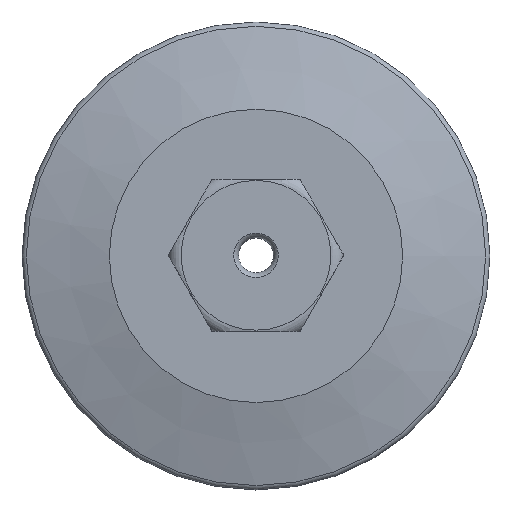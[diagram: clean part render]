
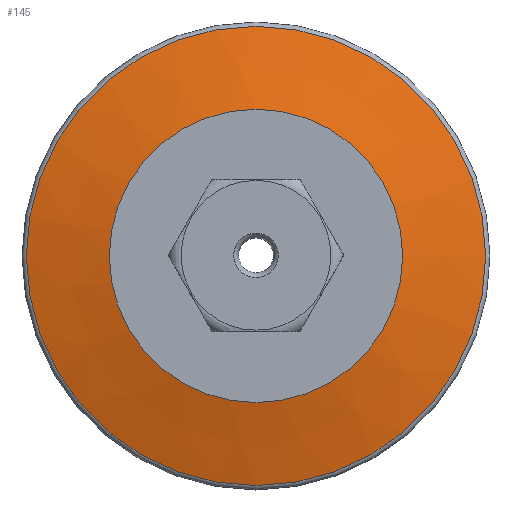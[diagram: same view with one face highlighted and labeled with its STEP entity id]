
A CAD part, top view. The second image highlights one B-rep face of the part: STEP entity #145.
In plain terms, the highlighted conical face has half-angle 75 degrees and reference radius 12.536 mm.
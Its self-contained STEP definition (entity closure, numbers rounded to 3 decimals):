
#145 = ADVANCED_FACE( '', ( #279, #280 ), #281, .T. );
#279 = FACE_OUTER_BOUND( '', #431, .T. );
#280 = FACE_BOUND( '', #432, .T. );
#281 = CONICAL_SURFACE( '', #433, 12.536, 1.309 );
#431 = EDGE_LOOP( '', ( #608 ) );
#432 = EDGE_LOOP( '', ( #609 ) );
#433 = AXIS2_PLACEMENT_3D( '', #610, #611, #612 );
#608 = ORIENTED_EDGE( '', *, *, #836, .T. );
#609 = ORIENTED_EDGE( '', *, *, #829, .F. );
#610 = CARTESIAN_POINT( '', ( 0., 0., 5. ) );
#611 = DIRECTION( '', ( 0., 0., -1. ) );
#612 = DIRECTION( '', ( -1., 0., 0. ) );
#829 = EDGE_CURVE( '', #945, #945, #946, .T. );
#836 = EDGE_CURVE( '', #957, #957, #958, .T. );
#945 = VERTEX_POINT( '', #1283 );
#946 = CIRCLE( '', #1284, 12.536 );
#957 = VERTEX_POINT( '', #1295 );
#958 = CIRCLE( '', #1296, 19.629 );
#1283 = CARTESIAN_POINT( '', ( 12.536, 0., 5. ) );
#1284 = AXIS2_PLACEMENT_3D( '', #1602, #1603, #1604 );
#1295 = CARTESIAN_POINT( '', ( 19.629, 0., 3.099 ) );
#1296 = AXIS2_PLACEMENT_3D( '', #1617, #1618, #1619 );
#1602 = CARTESIAN_POINT( '', ( 0., 0., 5. ) );
#1603 = DIRECTION( '', ( 0., 0., 1. ) );
#1604 = DIRECTION( '', ( 1., 0., 0. ) );
#1617 = CARTESIAN_POINT( '', ( 0., 0., 3.099 ) );
#1618 = DIRECTION( '', ( 0., 0., 1. ) );
#1619 = DIRECTION( '', ( 1., 0., 0. ) );
